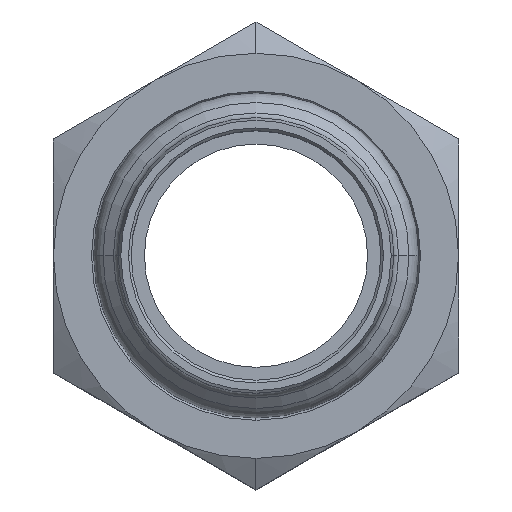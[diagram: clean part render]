
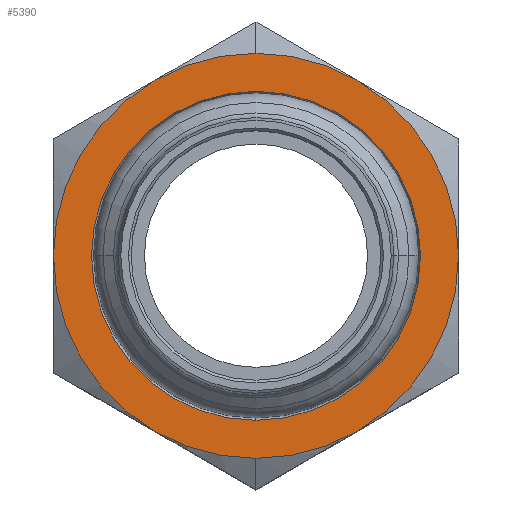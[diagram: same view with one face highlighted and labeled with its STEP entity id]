
A CAD part, top view. The second image highlights one B-rep face of the part: STEP entity #5390.
In plain terms, the highlighted planar face has unit normal (0, 0, 1) as drawn and (1, 0, 0) by its records, which use the part's own axes.
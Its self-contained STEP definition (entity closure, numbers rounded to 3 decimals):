
#2680=CARTESIAN_POINT('',(212.548,124.089,11.5));
#2690=VERTEX_POINT('',#2680);
#4010=CARTESIAN_POINT('',(212.548,81.171,
0.));
#4020=VERTEX_POINT('',#4010);
#4780=CARTESIAN_POINT('',(212.548,84.252,11.5));
#4790=VERTEX_POINT('',#4780);
#4820=CARTESIAN_POINT('',(212.548,104.171,0.));
#4830=DIRECTION('',(-1.,0.,0.));
#4840=DIRECTION('',(0.,-1.,0.));
#4850=AXIS2_PLACEMENT_3D('',#4820,#4830,#4840);
#4860=CIRCLE('',#4850,23.);
#4870=EDGE_CURVE('',#4020,#4790,#4860,.T.);
#4920=CARTESIAN_POINT('',(212.548,92.671,0.));
#4930=DIRECTION('',(-1.,0.,0.));
#4940=DIRECTION('',(0.,1.,0.));
#4950=AXIS2_PLACEMENT_3D('',#4920,#4930,#4940);
#4960=PLANE('',#4950);
#4970=CARTESIAN_POINT('',(212.548,104.171,23.));
#4980=VERTEX_POINT('',#4970);
#4990=EDGE_CURVE('',#4790,#4980,#4860,.T.);
#5000=ORIENTED_EDGE('',*,*,#4990,.F.);
#5010=EDGE_CURVE('',#4980,#2690,#4860,.T.);
#5020=ORIENTED_EDGE('',*,*,#5010,.F.);
#5030=CARTESIAN_POINT('',(212.548,127.171,0.));
#5040=VERTEX_POINT('',#5030);
#5050=EDGE_CURVE('',#2690,#5040,#4860,.T.);
#5060=ORIENTED_EDGE('',*,*,#5050,.F.);
#5070=CARTESIAN_POINT('',(212.548,124.089,-11.5));
#5080=VERTEX_POINT('',#5070);
#5090=EDGE_CURVE('',#5040,#5080,#4860,.T.);
#5100=ORIENTED_EDGE('',*,*,#5090,.F.);
#5110=CARTESIAN_POINT('',(212.548,104.171,-23.));
#5120=VERTEX_POINT('',#5110);
#5130=EDGE_CURVE('',#5080,#5120,#4860,.T.);
#5140=ORIENTED_EDGE('',*,*,#5130,.F.);
#5150=CARTESIAN_POINT('',(212.548,84.252,-11.5));
#5160=VERTEX_POINT('',#5150);
#5170=EDGE_CURVE('',#5120,#5160,#4860,.T.);
#5180=ORIENTED_EDGE('',*,*,#5170,.F.);
#5190=EDGE_CURVE('',#5160,#4020,#4860,.T.);
#5200=ORIENTED_EDGE('',*,*,#5190,.F.);
#5210=ORIENTED_EDGE('',*,*,#4870,.F.);
#5220=EDGE_LOOP('',(#5210,#5200,#5180,#5140,#5100,#5060,#5020,#5000));
#5230=FACE_OUTER_BOUND('',#5220,.T.);
#5240=CARTESIAN_POINT('',(212.548,104.171,0.));
#5250=DIRECTION('',(1.,0.,0.));
#5260=DIRECTION('',(0.,-1.,0.));
#5270=AXIS2_PLACEMENT_3D('',#5240,#5250,#5260);
#5280=CIRCLE('',#5270,18.677);
#5290=CARTESIAN_POINT('',(212.548,85.493,
0.));
#5300=VERTEX_POINT('',#5290);
#5310=CARTESIAN_POINT('',(212.548,122.848,0.));
#5320=VERTEX_POINT('',#5310);
#5330=EDGE_CURVE('',#5300,#5320,#5280,.T.);
#5340=ORIENTED_EDGE('',*,*,#5330,.F.);
#5350=EDGE_CURVE('',#5320,#5300,#5280,.T.);
#5360=ORIENTED_EDGE('',*,*,#5350,.F.);
#5370=EDGE_LOOP('',(#5360,#5340));
#5380=FACE_BOUND('',#5370,.T.);
#5390=ADVANCED_FACE('',(#5230,#5380),#4960,.F.);
